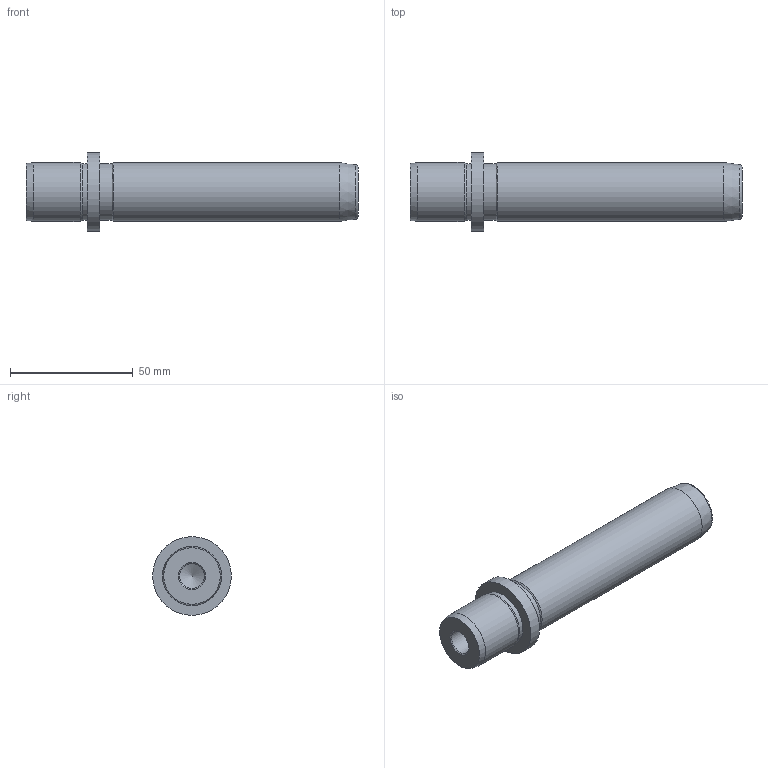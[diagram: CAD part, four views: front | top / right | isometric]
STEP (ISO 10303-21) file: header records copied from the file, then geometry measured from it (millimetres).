
FILE_DESCRIPTION(/* description */ ('Impex Ready, www.impex-ready.pl'),/* implementation_level */ '2;1');
FILE_NAME(/* name */ 'C:\Users\VIKKY\Nextcloud\SM\projekt 10 - części na stronę internetową\Pliki_3D_new\292 Słupy CE\292_CE_STEP\CE24110.ipt.step',/* time_stamp */ '2021-12-17T13:39:50+01:00',/* author */ ('SM'),/* organization */ (''),/* preprocessor_version */ 'ST-DEVELOPER v18.1',/* originating_system */ 'Autodesk Inventor 2021',/* authorisation */ '');
FILE_SCHEMA (('AUTOMOTIVE_DESIGN { 1 0 10303 214 3 1 1 }'));
Length unit declared in the file: millimetre
Products named in the file (1): CE24110
Bounding box: 135 x 32 x 32 mm (x, y, z)
Volume: 60074.4 mm3; surface area: 12649.2 mm2
Topology: 1 solids, 1 shells, 17 faces, 31 edges, 18 vertices
Faces by surface type: cone 6, cylinder 6, plane 4, torus 1
Full cylindrical faces by diameter (mm): 10 x1, 23 x2, 24 x2, 32 x1
Entity records: 508 total; most frequent: DIRECTION 84, CARTESIAN_POINT 66, ORIENTED_EDGE 60, AXIS2_PLACEMENT_3D 36, EDGE_CURVE 30, EDGE_LOOP 20, CIRCLE 18, VERTEX_POINT 18
